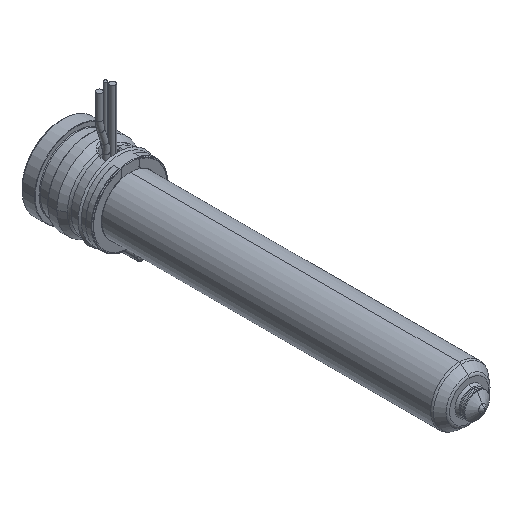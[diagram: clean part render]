
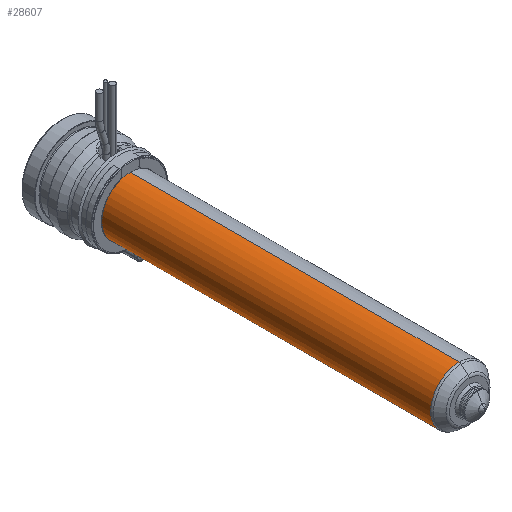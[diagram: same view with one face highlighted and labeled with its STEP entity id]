
A CAD part, isometric view. The second image highlights one B-rep face of the part: STEP entity #28607.
In plain terms, the highlighted cylindrical face has radius 9 mm (diameter 18 mm), a partial arc.
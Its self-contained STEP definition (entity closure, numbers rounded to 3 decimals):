
#28011=CARTESIAN_POINT('',(0.,-125.836,0.));
#28012=DIRECTION('',(0.,-1.,0.));
#28013=DIRECTION('',(0.,0.,1.));
#28014=AXIS2_PLACEMENT_3D('',#28011,#28012,#28013);
#28016=CARTESIAN_POINT('',(0.,-22.,0.));
#28017=DIRECTION('',(0.,1.,0.));
#28018=DIRECTION('',(0.,0.,-1.));
#28019=AXIS2_PLACEMENT_3D('',#28016,#28017,#28018);
#28021=DIRECTION('',(0.,1.,0.));
#28022=VECTOR('',#28021,103.836);
#28023=CARTESIAN_POINT('',(0.,-125.836,9.));
#28024=LINE('',#28023,#28022);
#28030=DIRECTION('',(0.,1.,0.));
#28031=VECTOR('',#28030,103.836);
#28032=CARTESIAN_POINT('',(0.,-125.836,-9.));
#28033=LINE('',#28032,#28031);
#28150=CARTESIAN_POINT('',(0.,-125.836,9.));
#28151=CARTESIAN_POINT('',(0.,-22.,9.));
#28152=VERTEX_POINT('',#28150);
#28153=VERTEX_POINT('',#28151);
#28154=CARTESIAN_POINT('',(0.,-125.836,-9.));
#28155=CARTESIAN_POINT('',(0.,-22.,-9.));
#28156=VERTEX_POINT('',#28154);
#28157=VERTEX_POINT('',#28155);
#28593=CARTESIAN_POINT('',(0.,-12.2,0.));
#28594=DIRECTION('',(0.,-1.,0.));
#28595=DIRECTION('',(0.,0.,1.));
#28596=AXIS2_PLACEMENT_3D('',#28593,#28594,#28595);
#28597=CYLINDRICAL_SURFACE('',#28596,9.);
#28599=ORIENTED_EDGE('',*,*,#28598,.F.);
#28600=ORIENTED_EDGE('',*,*,#28581,.T.);
#28602=ORIENTED_EDGE('',*,*,#28601,.T.);
#28604=ORIENTED_EDGE('',*,*,#28603,.T.);
#28605=EDGE_LOOP('',(#28599,#28600,#28602,#28604));
#28606=FACE_OUTER_BOUND('',#28605,.F.);
#28607=ADVANCED_FACE('',(#28606),#28597,.T.);
#28015=CIRCLE('',#28014,9.);
#28020=CIRCLE('',#28019,9.);
#28581=EDGE_CURVE('',#28152,#28156,#28015,.T.);
#28598=EDGE_CURVE('',#28152,#28153,#28024,.T.);
#28601=EDGE_CURVE('',#28156,#28157,#28033,.T.);
#28603=EDGE_CURVE('',#28157,#28153,#28020,.T.);
